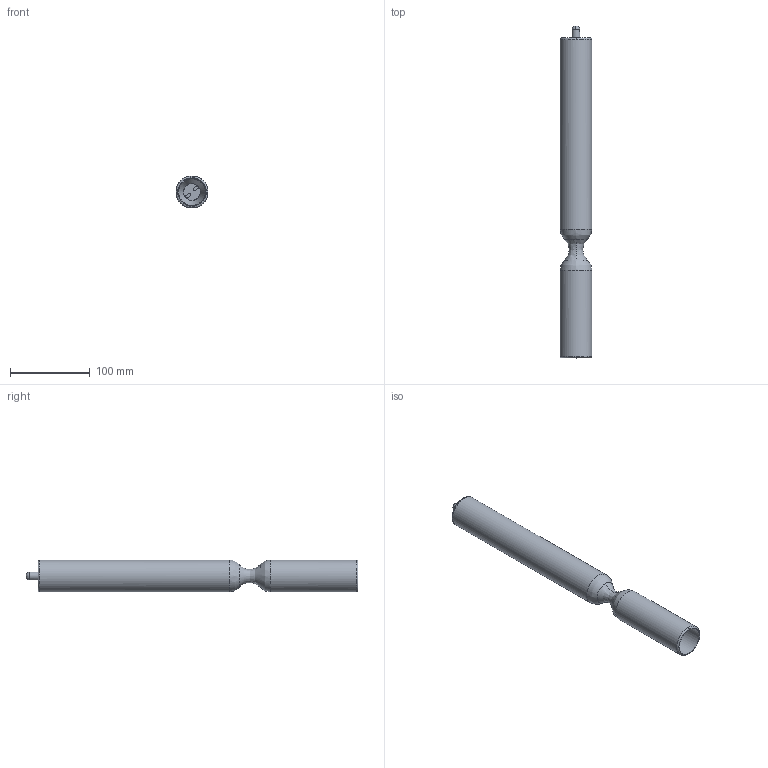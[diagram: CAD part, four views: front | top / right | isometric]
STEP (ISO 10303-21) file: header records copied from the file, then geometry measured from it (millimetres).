
FILE_DESCRIPTION(/* description */ (''),/* implementation_level */ '2;1');
FILE_NAME(/* name */ 'SEM.000263',/* time_stamp */ '2025-04-16T09:59:58+02:00',/* author */ (''),/* organization */ (''),/* preprocessor_version */ 'ST-DEVELOPER v16.5',/* originating_system */ 'Rhino 7.37',/* authorisation */ '');
FILE_SCHEMA (('CONFIG_CONTROL_DESIGN'));
Length unit declared in the file: millimetre
Products named in the file (1): Document
Bounding box: 40 x 415 x 40 mm (x, y, z)
Volume: 140274.5 mm3; surface area: 116146 mm2
Topology: 4 solids, 5 shells, 73 faces, 231 edges, 165 vertices
Faces by surface type: bspline 30, cylinder 23, plane 20
Full cylindrical faces by diameter (mm): 3.242 x1, 3.5 x1, 4.5 x1, 6 x1, 6.917 x1, 7 x3, 8 x2, 10 x2, 11 x1, 21 x1, 34 x1, 35.4 x2, 40 x2
Entity records: 4122 total; most frequent: CARTESIAN_POINT 2739, ORIENTED_EDGE 452, EDGE_CURVE 226, VERTEX_POINT 166, EDGE_LOOP 90, ADVANCED_FACE 73, FACE_OUTER_BOUND 73, B_SPLINE_CURVE_WITH_KNOTS 56
